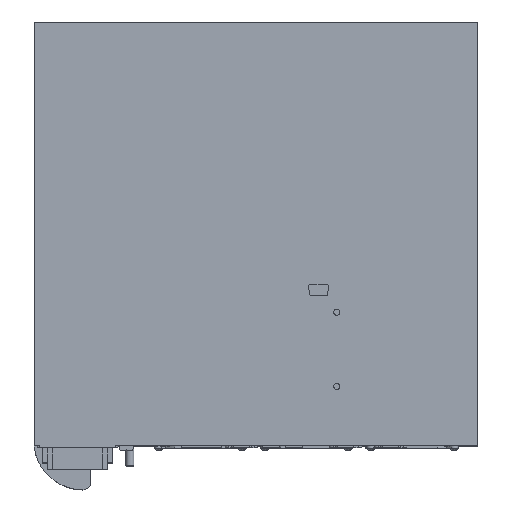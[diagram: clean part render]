
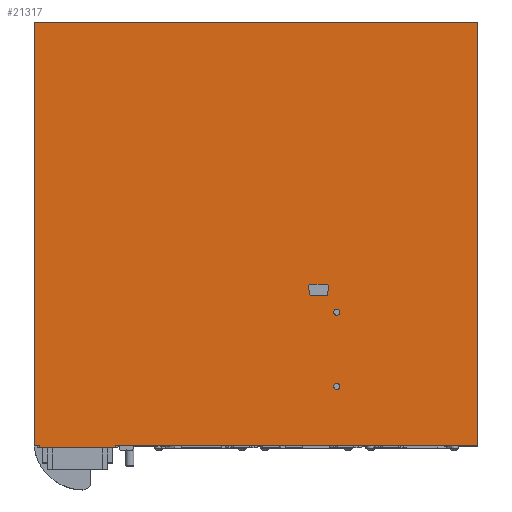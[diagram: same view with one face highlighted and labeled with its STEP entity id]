
A CAD part, top view. The second image highlights one B-rep face of the part: STEP entity #21317.
In plain terms, the highlighted planar face has unit normal (0, 0, 1).
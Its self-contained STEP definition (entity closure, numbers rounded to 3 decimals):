
#333=CIRCLE('',#22272,2.);
#335=CIRCLE('',#22276,2.);
#337=CIRCLE('',#22280,2.);
#339=CIRCLE('',#22284,2.);
#341=CIRCLE('',#22289,3.);
#343=CIRCLE('',#22293,3.);
#2195=LINE('',#43378,#4253);
#2219=LINE('',#43426,#4277);
#2342=LINE('',#44100,#4400);
#2346=LINE('',#44112,#4404);
#2350=LINE('',#44124,#4408);
#2354=LINE('',#44135,#4412);
#2469=LINE('',#44448,#4527);
#2486=LINE('',#44482,#4544);
#2487=LINE('',#44485,#4545);
#2488=LINE('',#44487,#4546);
#2489=LINE('',#44488,#4547);
#2490=LINE('',#44489,#4548);
#4253=VECTOR('',#25468,10.);
#4277=VECTOR('',#25492,10.);
#4400=VECTOR('',#25953,10.);
#4404=VECTOR('',#25965,10.);
#4408=VECTOR('',#25977,10.);
#4412=VECTOR('',#25989,10.);
#4527=VECTOR('',#26338,10.);
#4544=VECTOR('',#26363,10.);
#4545=VECTOR('',#26366,10.);
#4546=VECTOR('',#26367,10.);
#4547=VECTOR('',#26368,10.);
#4548=VECTOR('',#26369,10.);
#5130=FACE_BOUND('',#7294,.T.);
#5131=FACE_BOUND('',#7295,.T.);
#5132=FACE_BOUND('',#7296,.T.);
#6061=FACE_OUTER_BOUND('',#7293,.T.);
#7293=EDGE_LOOP('',(#17757,#17758,#17759,#17760,#17761,#17762,#17763,#17764));
#7294=EDGE_LOOP('',(#17765,#17766,#17767,#17768,#17769,#17770,#17771,#17772));
#7295=EDGE_LOOP('',(#17773));
#7296=EDGE_LOOP('',(#17774));
#9401=VERTEX_POINT('',#43375);
#9402=VERTEX_POINT('',#43377);
#9425=VERTEX_POINT('',#43423);
#9426=VERTEX_POINT('',#43425);
#9624=VERTEX_POINT('',#44090);
#9625=VERTEX_POINT('',#44091);
#9628=VERTEX_POINT('',#44099);
#9630=VERTEX_POINT('',#44105);
#9632=VERTEX_POINT('',#44111);
#9634=VERTEX_POINT('',#44117);
#9636=VERTEX_POINT('',#44123);
#9638=VERTEX_POINT('',#44129);
#9640=VERTEX_POINT('',#44139);
#9642=VERTEX_POINT('',#44146);
#9719=VERTEX_POINT('',#44445);
#9720=VERTEX_POINT('',#44447);
#9734=VERTEX_POINT('',#44484);
#9735=VERTEX_POINT('',#44486);
#12065=EDGE_CURVE('',#9402,#9401,#2195,.T.);
#12089=EDGE_CURVE('',#9426,#9425,#2219,.T.);
#12328=EDGE_CURVE('',#9624,#9625,#333,.T.);
#12332=EDGE_CURVE('',#9628,#9624,#2342,.T.);
#12335=EDGE_CURVE('',#9630,#9628,#335,.T.);
#12338=EDGE_CURVE('',#9632,#9630,#2346,.T.);
#12341=EDGE_CURVE('',#9634,#9632,#337,.T.);
#12344=EDGE_CURVE('',#9636,#9634,#2350,.T.);
#12347=EDGE_CURVE('',#9638,#9636,#339,.T.);
#12350=EDGE_CURVE('',#9625,#9638,#2354,.T.);
#12352=EDGE_CURVE('',#9640,#9640,#341,.T.);
#12355=EDGE_CURVE('',#9642,#9642,#343,.T.);
#12498=EDGE_CURVE('',#9719,#9720,#2469,.T.);
#12516=EDGE_CURVE('',#9426,#9719,#2486,.T.);
#12517=EDGE_CURVE('',#9425,#9734,#2487,.T.);
#12518=EDGE_CURVE('',#9734,#9735,#2488,.T.);
#12519=EDGE_CURVE('',#9735,#9402,#2489,.T.);
#12520=EDGE_CURVE('',#9720,#9401,#2490,.T.);
#17757=ORIENTED_EDGE('',*,*,#12516,.F.);
#17758=ORIENTED_EDGE('',*,*,#12089,.T.);
#17759=ORIENTED_EDGE('',*,*,#12517,.T.);
#17760=ORIENTED_EDGE('',*,*,#12518,.T.);
#17761=ORIENTED_EDGE('',*,*,#12519,.T.);
#17762=ORIENTED_EDGE('',*,*,#12065,.T.);
#17763=ORIENTED_EDGE('',*,*,#12520,.F.);
#17764=ORIENTED_EDGE('',*,*,#12498,.F.);
#17765=ORIENTED_EDGE('',*,*,#12328,.T.);
#17766=ORIENTED_EDGE('',*,*,#12350,.T.);
#17767=ORIENTED_EDGE('',*,*,#12347,.T.);
#17768=ORIENTED_EDGE('',*,*,#12344,.T.);
#17769=ORIENTED_EDGE('',*,*,#12341,.T.);
#17770=ORIENTED_EDGE('',*,*,#12338,.T.);
#17771=ORIENTED_EDGE('',*,*,#12335,.T.);
#17772=ORIENTED_EDGE('',*,*,#12332,.T.);
#17773=ORIENTED_EDGE('',*,*,#12352,.T.);
#17774=ORIENTED_EDGE('',*,*,#12355,.T.);
#19631=PLANE('',#22408);
#21317=ADVANCED_FACE('',(#6061,#5130,#5131,#5132),#19631,.T.);
#22272=AXIS2_PLACEMENT_3D('',#44092,#25945,#25946);
#22276=AXIS2_PLACEMENT_3D('',#44106,#25958,#25959);
#22280=AXIS2_PLACEMENT_3D('',#44118,#25970,#25971);
#22284=AXIS2_PLACEMENT_3D('',#44130,#25982,#25983);
#22289=AXIS2_PLACEMENT_3D('',#44140,#25995,#25996);
#22293=AXIS2_PLACEMENT_3D('',#44147,#26004,#26005);
#22408=AXIS2_PLACEMENT_3D('',#44483,#26364,#26365);
#25468=DIRECTION('',(1.,0.,0.));
#25492=DIRECTION('',(1.,0.,0.));
#25945=DIRECTION('center_axis',(0.,0.,-1.));
#25946=DIRECTION('ref_axis',(0.,-1.,0.));
#25953=DIRECTION('',(-0.091,0.996,0.));
#25958=DIRECTION('center_axis',(0.,0.,-1.));
#25959=DIRECTION('ref_axis',(0.996,0.091,0.));
#25965=DIRECTION('',(-1.,0.,0.));
#25970=DIRECTION('center_axis',(0.,0.,-1.));
#25971=DIRECTION('ref_axis',(0.,1.,0.));
#25977=DIRECTION('',(-0.091,-0.996,0.));
#25982=DIRECTION('center_axis',(0.,0.,-1.));
#25983=DIRECTION('ref_axis',(-0.996,0.091,0.));
#25989=DIRECTION('',(1.,0.,0.));
#25995=DIRECTION('center_axis',(0.,0.,-1.));
#25996=DIRECTION('ref_axis',(-1.,0.,0.));
#26004=DIRECTION('center_axis',(0.,0.,-1.));
#26005=DIRECTION('ref_axis',(-1.,0.,0.));
#26338=DIRECTION('',(-1.,0.,0.));
#26363=DIRECTION('',(0.,-1.,0.));
#26364=DIRECTION('center_axis',(0.,0.,1.));
#26365=DIRECTION('ref_axis',(1.,0.,0.));
#26366=DIRECTION('',(0.,1.,0.));
#26367=DIRECTION('',(-1.,0.,0.));
#26368=DIRECTION('',(0.,-1.,0.));
#26369=DIRECTION('',(0.,1.,0.));
#43375=CARTESIAN_POINT('',(-215.,-210.,109.75));
#43377=CARTESIAN_POINT('',(-220.,-210.,109.75));
#43378=CARTESIAN_POINT('',(220.,-210.,109.75));
#43423=CARTESIAN_POINT('',(220.,-210.,109.75));
#43425=CARTESIAN_POINT('',(-139.,-210.,109.75));
#43426=CARTESIAN_POINT('',(220.,-210.,109.75));
#44090=CARTESIAN_POINT('',(52.198,-52.181,109.75));
#44091=CARTESIAN_POINT('',(54.19,-50.,109.75));
#44092=CARTESIAN_POINT('Origin',(54.19,-52.,109.75));
#44099=CARTESIAN_POINT('',(52.835,-59.181,109.75));
#44100=CARTESIAN_POINT('',(49.95,-27.451,109.75));
#44105=CARTESIAN_POINT('',(54.826,-61.,109.75));
#44106=CARTESIAN_POINT('Origin',(54.826,-59.,109.75));
#44111=CARTESIAN_POINT('',(69.174,-61.,109.75));
#44112=CARTESIAN_POINT('',(34.587,-61.,109.75));
#44117=CARTESIAN_POINT('',(71.165,-59.181,109.75));
#44118=CARTESIAN_POINT('Origin',(69.174,-59.,109.75));
#44123=CARTESIAN_POINT('',(71.802,-52.181,109.75));
#44124=CARTESIAN_POINT('',(73.86,-29.541,109.75));
#44129=CARTESIAN_POINT('',(69.81,-50.,109.75));
#44130=CARTESIAN_POINT('Origin',(69.81,-52.,109.75));
#44135=CARTESIAN_POINT('',(27.095,-50.,109.75));
#44139=CARTESIAN_POINT('',(83.,-151.2,109.75));
#44140=CARTESIAN_POINT('Origin',(80.,-151.2,109.75));
#44146=CARTESIAN_POINT('',(83.,-77.7,109.75));
#44147=CARTESIAN_POINT('Origin',(80.,-77.7,109.75));
#44445=CARTESIAN_POINT('',(-139.,-212.,109.75));
#44447=CARTESIAN_POINT('',(-215.,-212.,109.75));
#44448=CARTESIAN_POINT('',(-217.,-212.,109.75));
#44482=CARTESIAN_POINT('',(-139.,-105.,109.75));
#44483=CARTESIAN_POINT('Origin',(0.,0.,109.75));
#44484=CARTESIAN_POINT('',(220.,210.,109.75));
#44485=CARTESIAN_POINT('',(220.,210.,109.75));
#44486=CARTESIAN_POINT('',(-220.,210.,109.75));
#44487=CARTESIAN_POINT('',(-220.,210.,109.75));
#44488=CARTESIAN_POINT('',(-220.,-210.,109.75));
#44489=CARTESIAN_POINT('',(-215.,-105.,109.75));
